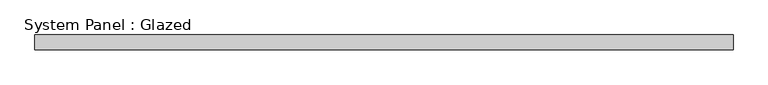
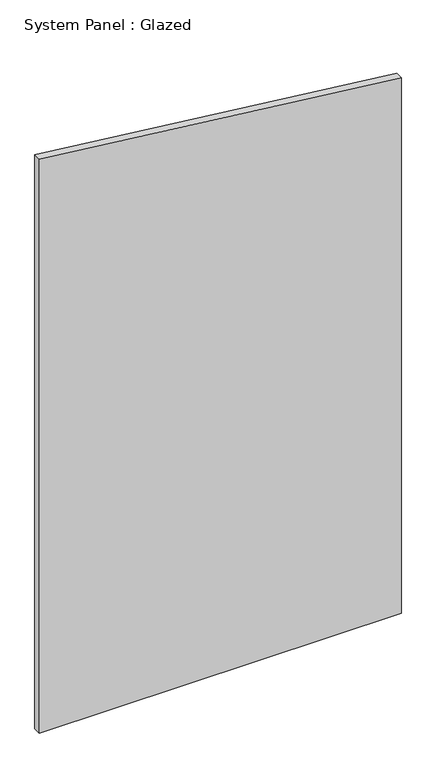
"""IFC4 building model written with IfcOpenShell, lengths in millimetres: plate geometry, System Panel : Glazed."""

import ifcopenshell
import ifcopenshell.guid

model = None  # the IFC model being written
_history = None  # IfcOwnerHistory: only IFC2X3 demands one
_inside = {}  # id of a spatial element -> (the spatial element, [elements in it])
_under = {}  # id of a project, library or spatial element -> (it, [spatial elements below it])
_declared = {}  # id of a project -> (the project, [libraries it declares])
_typed = {}  # id of a type object -> (the type object, [elements of that type])
_made_of = {}  # id of a material, layer set ... -> (it, [elements and type objects made of it])


def new_model(schema):
    """Start an empty IFC model of exactly this schema.

    Asked for "IFC4X3", IfcOpenShell would pick the latest addendum, in which some entities
    have other attributes; the version numbers below select the first issue.
    IFC2X3 requires an IfcOwnerHistory on every rooted entity: one is made here for all.
    """
    global model, _history
    if schema == "IFC4X3":
        model = ifcopenshell.file(schema_version=(4, 3, 0, 0))
    else:
        model = ifcopenshell.file(schema=schema)
    _inside.clear()
    _under.clear()
    _declared.clear()
    _typed.clear()
    _made_of.clear()
    _history = None
    if model.schema == "IFC2X3":
        org = make("IfcOrganization", Name="unknown")
        user = make(
            "IfcPersonAndOrganization",
            ThePerson=make("IfcPerson", FamilyName="unknown"),
            TheOrganization=org,
        )
        app = make(
            "IfcApplication",
            ApplicationDeveloper=org,
            Version="unknown",
            ApplicationFullName="unknown",
            ApplicationIdentifier="unknown",
        )
        _history = make(
            "IfcOwnerHistory",
            OwningUser=user,
            OwningApplication=app,
            ChangeAction="ADDED",
            CreationDate=0,
        )
    return model


def make(cls, **values):
    """One entity of the class cls with the attributes given. An attribute that is None is left unset."""
    return model.create_entity(
        cls, **{name: value for name, value in values.items() if value is not None}
    )


def rooted(cls, **values):
    """An entity with a GlobalId (a new one), such as an element, a storey or a relation."""
    return make(cls, GlobalId=ifcopenshell.guid.new(), OwnerHistory=_history, **values)


def si_unit(unit_type, name, prefix=None):
    """IfcSIUnit, for example si_unit("LENGTHUNIT", "METRE", prefix="MILLI")."""
    return make("IfcSIUnit", UnitType=unit_type, Prefix=prefix, Name=name)


def assignment(units):
    """IfcUnitAssignment: the units of a project."""
    return None if units is None else make("IfcUnitAssignment", Units=units)


def point(xyz):
    """IfcCartesianPoint."""
    return None if xyz is None else make("IfcCartesianPoint", Coordinates=xyz)


def direction(xyz):
    """IfcDirection."""
    return None if xyz is None else make("IfcDirection", DirectionRatios=xyz)


def frame(location, z_axis=None, x_axis=None):
    """IfcAxis2Placement3D, a coordinate frame: its origin and axes. An axis left out is left unset."""
    return make(
        "IfcAxis2Placement3D",
        Location=point(location),
        Axis=direction(z_axis),
        RefDirection=direction(x_axis),
    )


def origin():
    """The frame at (0, 0, 0) with its axes left unset."""
    return frame((0.0, 0.0, 0.0))


def place(relative_to, where):
    """IfcLocalPlacement: puts the frame where relative to a parent placement (None: the world)."""
    return make(
        "IfcLocalPlacement", PlacementRelTo=relative_to, RelativePlacement=where
    )


def context(
    kind, dimensions, precision=None, world=None, true_north=None, identifier=None
):
    """IfcGeometricRepresentationContext, for example the 3D "Model" context."""
    return make(
        "IfcGeometricRepresentationContext",
        ContextIdentifier=identifier,
        ContextType=kind,
        CoordinateSpaceDimension=dimensions,
        Precision=precision,
        WorldCoordinateSystem=world,
        TrueNorth=true_north,
    )


def project(units=None, contexts=None):
    """IfcProject with its units and contexts."""
    return rooted(
        "IfcProject",
        Name="project",
        RepresentationContexts=contexts,
        UnitsInContext=assignment(units),
    )


def spatial(cls, under=None, at=None, **own):
    """A site, building, storey or space (cls), placed at a placement, below another one or the project."""
    s = rooted(cls, ObjectPlacement=at, **own)
    if under is not None:
        _under.setdefault(under.id(), (under, []))[1].append(s)
    return s


def polyline(points):
    """IfcPolyline through the points."""
    return make("IfcPolyline", Points=[point(p) for p in points])


def outline(outer, holes=None, kind="AREA"):
    """IfcArbitraryClosedProfileDef: a profile drawn as a closed curve; with holes, ...WithVoids."""
    if holes is None:
        return make("IfcArbitraryClosedProfileDef", ProfileType=kind, OuterCurve=outer)
    return make(
        "IfcArbitraryProfileDefWithVoids",
        ProfileType=kind,
        OuterCurve=outer,
        InnerCurves=holes,
    )


def extrude(swept, where, along, depth):
    """IfcExtrudedAreaSolid: the profile swept, set in the frame where, extruded along a direction by depth."""
    return make(
        "IfcExtrudedAreaSolid",
        SweptArea=swept,
        Position=where,
        ExtrudedDirection=direction(along),
        Depth=depth,
    )


def shape(context_of_items, identifier, shape_type, items):
    """IfcShapeRepresentation: the items that make up one representation, for example the "Body"."""
    return make(
        "IfcShapeRepresentation",
        ContextOfItems=context_of_items,
        RepresentationIdentifier=identifier,
        RepresentationType=shape_type,
        Items=items,
    )


def source(mapping_origin, context_of_items, identifier, shape_type, items):
    """IfcRepresentationMap: a shape defined once, which mapped items show again and again."""
    return make(
        "IfcRepresentationMap",
        MappingOrigin=mapping_origin,
        MappedRepresentation=shape(context_of_items, identifier, shape_type, items),
    )


def transform(
    local_origin,
    x_axis=None,
    y_axis=None,
    z_axis=None,
    scale=None,
    scale2=None,
    scale3=None,
    uniform=True,
):
    """IfcCartesianTransformationOperator3D, or its non-uniform kind. x_axis, y_axis, z_axis: its Axis1, 2, 3."""
    if uniform:
        return make(
            "IfcCartesianTransformationOperator3D",
            Axis1=direction(x_axis),
            Axis2=direction(y_axis),
            LocalOrigin=point(local_origin),
            Scale=scale,
            Axis3=direction(z_axis),
        )
    return make(
        "IfcCartesianTransformationOperator3DnonUniform",
        Axis1=direction(x_axis),
        Axis2=direction(y_axis),
        LocalOrigin=point(local_origin),
        Scale=scale,
        Axis3=direction(z_axis),
        Scale2=scale2,
        Scale3=scale3,
    )


def mapped(mapping_source, mapping_target):
    """IfcMappedItem: shows the shape of a source again, moved by a transform."""
    return make(
        "IfcMappedItem", MappingSource=mapping_source, MappingTarget=mapping_target
    )


def made_of(thing, what):
    """Note that an element or type object is made of a material, layer set ...; save() writes the relation."""
    if what is not None:
        _made_of.setdefault(what.id(), (what, []))[1].append(thing)
    return thing


def element(
    cls,
    number,
    at=None,
    inside=None,
    cuts=None,
    type_object=None,
    material=None,
    context=None,
    identifier="Body",
    shape_type=None,
    held_by="IfcProductDefinitionShape",
    body=None,
    shapes=None,
    **own,
):
    """One element of the class cls, such as IfcWall. Its Tag is "e" and its number.

    at: its placement. inside: the storey or other place that contains it. cuts: it is an
    opening in that element (IfcRelVoidsElement). A single representation is given by context,
    identifier, shape_type and body (its items); several are given by shapes. held_by: the class
    of the entity that holds the representations. save() writes the other relations.
    """
    e = rooted(cls, Tag="e%d" % number, ObjectPlacement=at, **own)
    if body is not None:
        shapes = [shape(context, identifier, shape_type, body)]
    if shapes is not None:
        e.Representation = make(held_by, Representations=shapes)
    if inside is not None:
        _inside.setdefault(inside.id(), (inside, []))[1].append(e)
    if cuts is not None:
        rooted(
            "IfcRelVoidsElement", RelatingBuildingElement=cuts, RelatedOpeningElement=e
        )
    if type_object is not None:
        _typed.setdefault(type_object.id(), (type_object, []))[1].append(e)
    return made_of(e, material)


def aggregate(whole, parts):
    """IfcRelAggregates: a whole, such as a stair, and the parts it consists of."""
    return rooted("IfcRelAggregates", RelatingObject=whole, RelatedObjects=parts)


def save(model, path):
    """Write the relations noted so far, then the file.

    IfcRelAggregates (storeys below a building ...), IfcRelContainedInSpatialStructure (elements
    in a storey), IfcRelDefinesByType, IfcRelAssociatesMaterial and IfcRelDeclares: one each for
    every whole, place, type object, material and project.
    """
    for whole, parts in _under.values():
        aggregate(whole, parts)
    for where, things in _inside.values():
        rooted(
            "IfcRelContainedInSpatialStructure",
            RelatedElements=things,
            RelatingStructure=where,
        )
    for kind, things in _typed.values():
        rooted("IfcRelDefinesByType", RelatedObjects=things, RelatingType=kind)
    for what, things in _made_of.values():
        rooted("IfcRelAssociatesMaterial", RelatedObjects=things, RelatingMaterial=what)
    for by, libraries in _declared.values():
        rooted("IfcRelDeclares", RelatingContext=by, RelatedDefinitions=libraries)
    model.write(path)


def system_panel_glazed_34b07004(model_context):
    return source(origin(), model_context, "Body", "SweptSolid", [
        extrude(outline(polyline([(0.0, -600.075), (0.0, 600.075), (1876.1693094, 600.075), (2010.4038959, -600.075), (0.0, -600.075)])), frame((0.0, -44.45, 0.0), z_axis=(0.0, 1.0, 0.0), x_axis=(0.0, 0.0, 1.0)), (0.0, 0.0, 1.0), 25.4),
    ])


if __name__ == "__main__":
    model = new_model("IFC4")
    model_context = context("Model", 3, world=origin())
    ifc_project = project(units=[si_unit("LENGTHUNIT", "METRE", prefix="MILLI")], contexts=[model_context])
    site = spatial("IfcSite", under=ifc_project)
    building = spatial("IfcBuilding", under=site)
    placement = place(None, origin())
    system_panel_glazed_shape = system_panel_glazed_34b07004(model_context)
    element("IfcPlate", 1, ObjectType="System Panel : Glazed", at=placement, inside=building, context=model_context, shape_type="MappedRepresentation", body=[
        mapped(system_panel_glazed_shape, transform((0.0, 0.0, 0.0), x_axis=(1.0, 0.0, 0.0), y_axis=(0.0, 1.0, 0.0), z_axis=(0.0, 0.0, 1.0))),
    ])
    save(model, "model.ifc")
